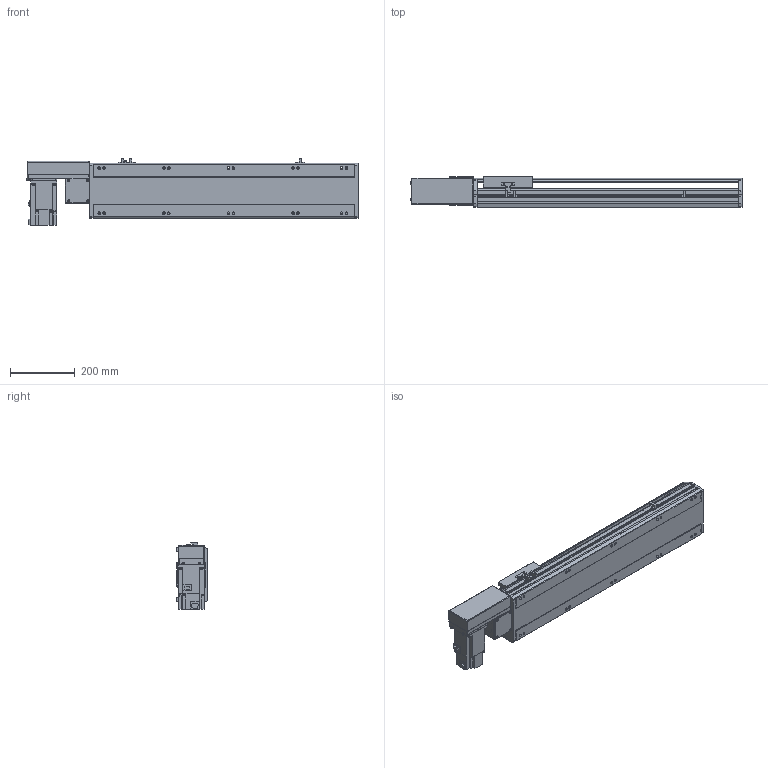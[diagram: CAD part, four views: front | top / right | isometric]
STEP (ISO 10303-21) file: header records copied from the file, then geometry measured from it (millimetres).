
FILE_DESCRIPTION(/* description */ ('STEP AP214'),/* implementation_level */ '2;1');
FILE_NAME(/* name */ 'PBS170-P40-S550-R-T75-C1-N(0)',/* time_stamp */ '2022-06-07T09:29:16+02:00',/* author */ ('License CC BY-ND 4.0'),/* organization */ ('CADENAS'),/* preprocessor_version */ 'ST-DEVELOPER v18.102',/* originating_system */ 'PARTsolutions',/* authorisation */ ' ');
FILE_SCHEMA (('AUTOMOTIVE_DESIGN {1 0 10303 214 3 1 1}'));
Length unit declared in the file: millimetre
Products named in the file (7): PBS170-P40-S550-R-T75-C1-N(0); PBS170_sensor; PBS170_plant; PBS170_sliser; T75-p1; PBS170T-R_motors; PBS170-S550()_body
Assembly tree (8 placements, depth 2):
  PBS170-P40-S550-R-T75-C1-N(0)
    PBS170_sensor  x3
    PBS170_plant
    PBS170_sliser
    T75-p1
    PBS170T-R_motors
    PBS170-S550()_body
Bounding box: 1028 x 97 x 205.3 mm (x, y, z)
Volume: 7784619.3 mm3; surface area: 1053094.7 mm2
Topology: 8 solids, 8 shells, 1034 faces, 2755 edges, 1796 vertices
Faces by surface type: plane 669, cylinder 315, cone 40, sphere 8, torus 2
Full cylindrical faces by diameter (mm): 3.242 x4, 4 x2, 4.4 x4, 4.5 x6, 4.917 x4, 6 x9, 6.647 x18, 7 x2, 7.5 x4, 8 x8, 8.5 x10, 10 x4, 10.5 x10, 11 x2, 30 x2, 40 x1, 70 x1
Entity records: 29744 total; most frequent: CARTESIAN_POINT 5377, DIRECTION 5090, ORIENTED_EDGE 4848, EDGE_CURVE 2424, AXIS2_PLACEMENT_3D 1747, VERTEX_POINT 1658, LINE 1596, VECTOR 1596
